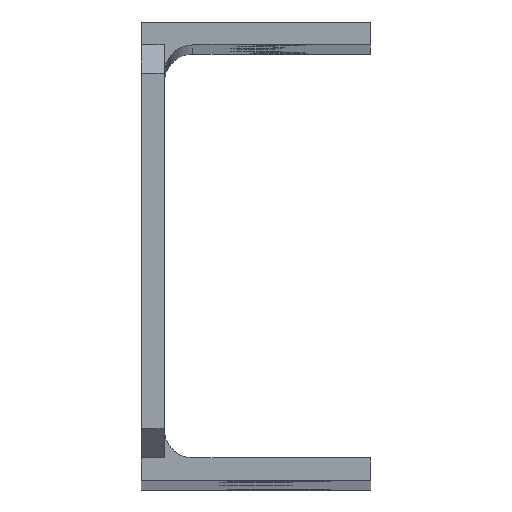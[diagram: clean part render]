
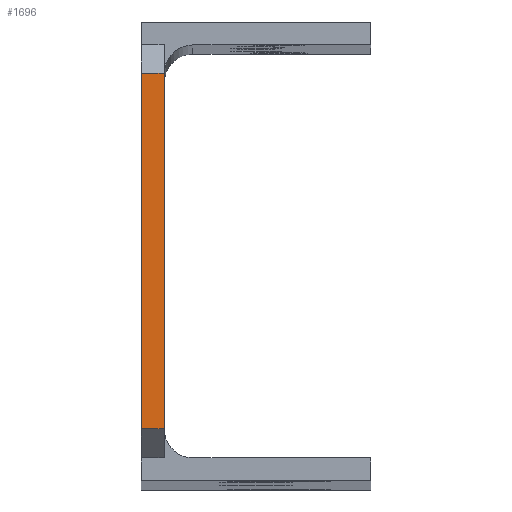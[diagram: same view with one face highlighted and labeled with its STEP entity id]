
A CAD part, top view. The second image highlights one B-rep face of the part: STEP entity #1696.
In plain terms, the highlighted planar face has unit normal (0, 0, 1).
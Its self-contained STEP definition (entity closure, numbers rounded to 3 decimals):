
#14 = EDGE_LOOP ( 'NONE', ( #2779, #2236, #2888, #1567 ) ) ;
#97 = VERTEX_POINT ( 'NONE', #1154 ) ;
#128 = EDGE_CURVE ( 'NONE', #97, #1754, #2832, .T. ) ;
#133 = VECTOR ( 'NONE', #2928, 1000. ) ;
#227 = EDGE_CURVE ( 'NONE', #2590, #97, #758, .T. ) ;
#480 = EDGE_CURVE ( 'NONE', #2787, #2590, #1226, .T. ) ;
#755 = VECTOR ( 'NONE', #3072, 1000. ) ;
#758 = LINE ( 'NONE', #2725, #133 ) ;
#821 = CARTESIAN_POINT ( 'NONE',  ( 4., 9., 992. ) ) ;
#828 = FACE_OUTER_BOUND ( 'NONE', #14, .T. ) ;
#981 = DIRECTION ( 'NONE',  ( -1., 0., 0. ) ) ;
#1051 = AXIS2_PLACEMENT_3D ( 'NONE', #1129, #1737, #1309 ) ;
#1129 = CARTESIAN_POINT ( 'NONE',  ( 0., 0., 992. ) ) ;
#1154 = CARTESIAN_POINT ( 'NONE',  ( 4., 71., 992. ) ) ;
#1161 = LINE ( 'NONE', #2841, #755 ) ;
#1226 = LINE ( 'NONE', #1299, #2389 ) ;
#1299 = CARTESIAN_POINT ( 'NONE',  ( 4., 9., 992. ) ) ;
#1309 = DIRECTION ( 'NONE',  ( 1., 0., 0. ) ) ;
#1321 = CARTESIAN_POINT ( 'NONE',  ( 0., 71., 992. ) ) ;
#1567 = ORIENTED_EDGE ( 'NONE', *, *, #128, .T. ) ;
#1663 = CARTESIAN_POINT ( 'NONE',  ( 0., 71., 992. ) ) ;
#1696 = ADVANCED_FACE ( 'NONE', ( #828 ), #2735, .T. ) ;
#1737 = DIRECTION ( 'NONE',  ( 0., 0., 1. ) ) ;
#1754 = VERTEX_POINT ( 'NONE', #1321 ) ;
#1850 = EDGE_CURVE ( 'NONE', #2787, #1754, #1161, .T. ) ;
#1977 = DIRECTION ( 'NONE',  ( 1., 0., 0. ) ) ;
#2023 = CARTESIAN_POINT ( 'NONE',  ( 0., 9., 992. ) ) ;
#2236 = ORIENTED_EDGE ( 'NONE', *, *, #480, .T. ) ;
#2389 = VECTOR ( 'NONE', #1977, 1000. ) ;
#2590 = VERTEX_POINT ( 'NONE', #821 ) ;
#2725 = CARTESIAN_POINT ( 'NONE',  ( 4., 0., 992. ) ) ;
#2735 = PLANE ( 'NONE',  #1051 ) ;
#2779 = ORIENTED_EDGE ( 'NONE', *, *, #1850, .F. ) ;
#2787 = VERTEX_POINT ( 'NONE', #2023 ) ;
#2832 = LINE ( 'NONE', #1663, #2846 ) ;
#2841 = CARTESIAN_POINT ( 'NONE',  ( 0., 0., 992. ) ) ;
#2846 = VECTOR ( 'NONE', #981, 1000. ) ;
#2888 = ORIENTED_EDGE ( 'NONE', *, *, #227, .T. ) ;
#2928 = DIRECTION ( 'NONE',  ( 0., 1., 0. ) ) ;
#3072 = DIRECTION ( 'NONE',  ( 0., 1., 0. ) ) ;
